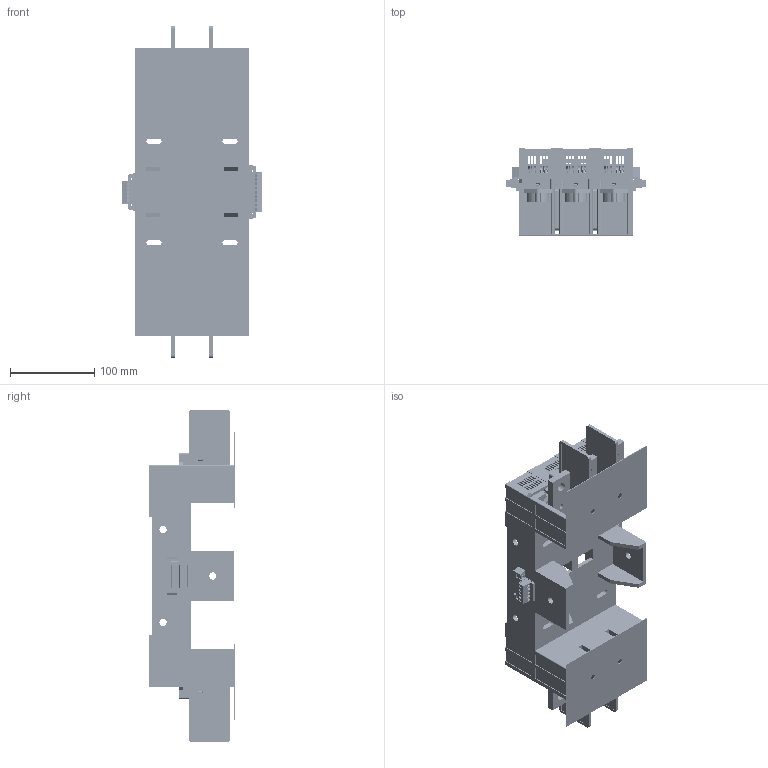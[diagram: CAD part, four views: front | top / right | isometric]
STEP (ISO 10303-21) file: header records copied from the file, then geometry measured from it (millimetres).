
FILE_DESCRIPTION (( 'STEP AP203' ), '1' );
FILE_NAME ('5-400-3P-P1FH.STEP', '2024-09-26T03:57:22', ( 'A' ), ( '' ), 'SwSTEP 2.0', 'SolidWorks 2018', '' );
FILE_SCHEMA (( 'CONFIG_CONTROL_DESIGN' ));
Products named in the file (1): 5-400-3P-P1FH
Bounding box: 165.2 x 102.5 x 393 mm (x, y, z)
Volume: 1029999.3 mm3; surface area: 561926.4 mm2
Topology: 155 solids, 155 shells, 6502 faces, 17770 edges, 11712 vertices
Faces by surface type: plane 3750, cylinder 2584, torus 82, bspline 54, cone 32
Entity records: 211095 total; most frequent: CARTESIAN_POINT 41005, DIRECTION 35874, ORIENTED_EDGE 35524, EDGE_CURVE 17762, VECTOR 12152, LINE 12152, AXIS2_PLACEMENT_3D 11861, VERTEX_POINT 11712
